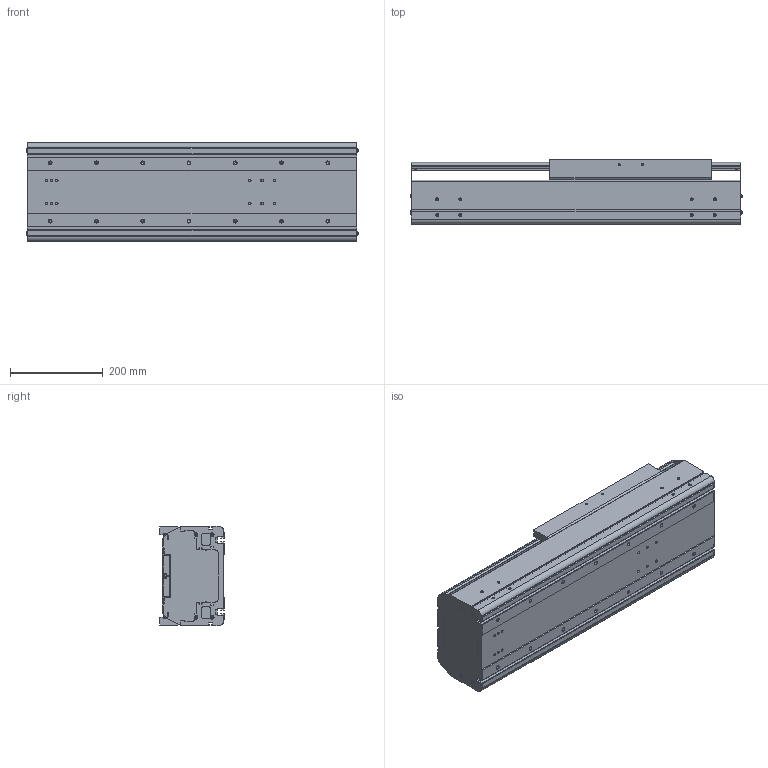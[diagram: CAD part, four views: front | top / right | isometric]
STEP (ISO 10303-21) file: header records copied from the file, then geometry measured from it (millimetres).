
FILE_DESCRIPTION((''),'2;1');
FILE_NAME('BE60G-ST-L_N-25_IGS_PRT','2017-06-18T',(' '),(''),'PRO/ENGINEER BY PARAMETRIC TECHNOLOGY CORPORATION, 2015030','PRO/ENGINEER BY PARAMETRIC TECHNOLOGY CORPORATION, 2015030','');
FILE_SCHEMA(('CONFIG_CONTROL_DESIGN'));
Length unit declared in the file: millimetre
Products named in the file (1): BE60G-ST-L_N-25_IGS_PRT
Bounding box: 717.4 x 140 x 214 mm (x, y, z)
Volume: 6744324.3 mm3; surface area: 1735482.7 mm2
Topology: 2 solids, 108 shells, 1378 faces, 3788 edges, 2476 vertices
Faces by surface type: cylinder 664, plane 578, cone 88, sphere 24, torus 24
Entity records: 45150 total; most frequent: CARTESIAN_POINT 9646, DIRECTION 7550, ORIENTED_EDGE 6992, EDGE_CURVE 3704, AXIS2_PLACEMENT_3D 2777, VERTEX_POINT 2476, VECTOR 1996, LINE 1996
